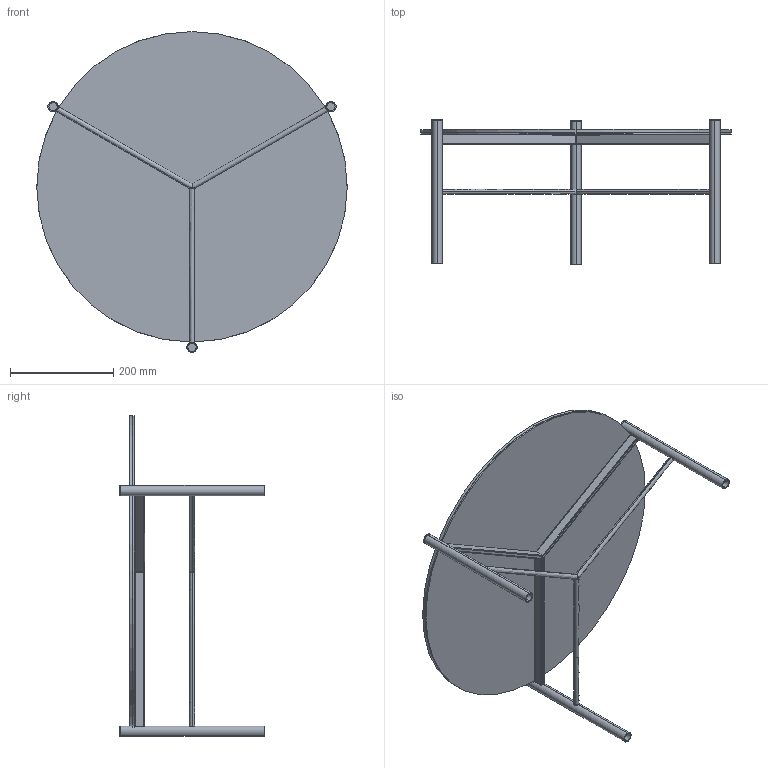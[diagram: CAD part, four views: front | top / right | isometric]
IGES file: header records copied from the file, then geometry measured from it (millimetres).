
Start section: SolidWorks IGES file using analytic representation for surfaces
Global section: file name: Y:\eforma\TECNICO\SOLIDWORKS\E-FORMA\2-TAVOLINI\JACK\02 parts\J101G.IGS; native system: SolidWorks 2022; preprocessor: SolidWorks 2022; author: eforma.tech; date: 240806.133130; units: millimetre
Bounding box: 600 x 279 x 620.07 mm (x, y, z)
Volume: 2711261.1 mm3; surface area: 1386762.7 mm2
Topology: 14 solids, 14 shells, 125 faces, 293 edges, 194 vertices
Faces by surface type: revolution 73, plane 52
